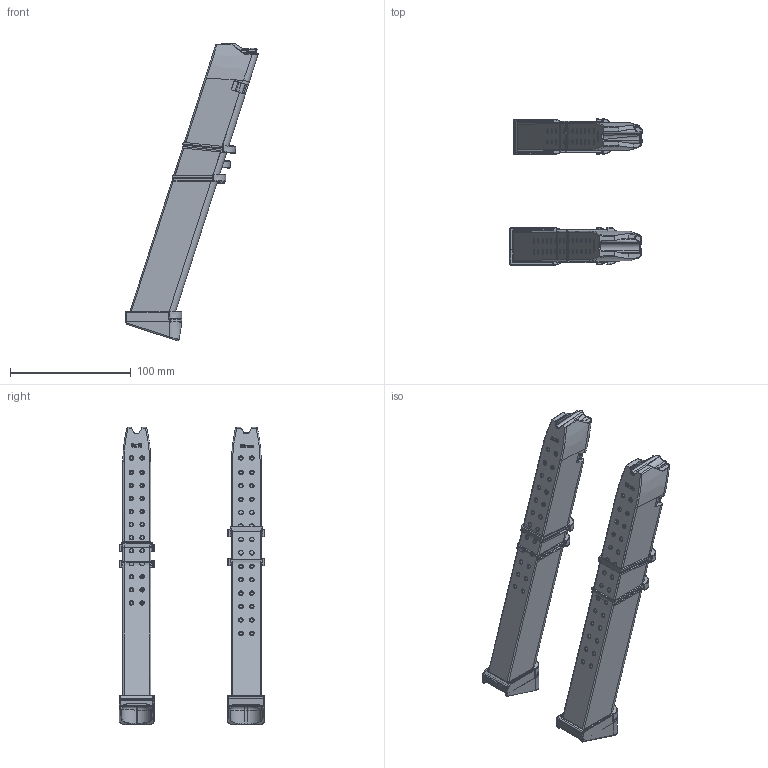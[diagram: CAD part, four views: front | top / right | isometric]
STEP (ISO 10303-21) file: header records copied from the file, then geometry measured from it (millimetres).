
FILE_DESCRIPTION(/* description */ (''),/* implementation_level */ '2;1');
FILE_NAME(/* name */ 'H:/My Drive/AWCY/DMB Glock Mags (For Release)/DMB Glock Mags 9 & 10.step',/* time_stamp */ '2022-01-17T19:46:26-05:00',/* author */ (''),/* organization */ (''),/* preprocessor_version */ 'ST-DEVELOPER v18.1',/* originating_system */ 'Autodesk Translation Framework v10.10.0.1391',/* authorisation */ '');
FILE_SCHEMA (('AUTOMOTIVE_DESIGN { 1 0 10303 214 3 1 1 }'));
Products named in the file (1): (Unsaved)
Bounding box: 110.02 x 120.83 x 246.15 mm (x, y, z)
Volume: 247772.9 mm3; surface area: 225093.1 mm2
Topology: 14 solids, 128 shells, 6513 faces, 17804 edges, 11652 vertices
Faces by surface type: bspline 3881, plane 1929, cylinder 444, torus 205, sphere 54
Full cylindrical faces by diameter (mm): 5 x1, 5.5 x3
Entity records: 276237 total; most frequent: CARTESIAN_POINT 140249, ORIENTED_EDGE 35582, EDGE_CURVE 17791, DIRECTION 16724, VERTEX_POINT 11652, LINE 8124, VECTOR 8124, EDGE_LOOP 6935
